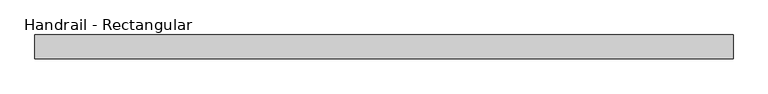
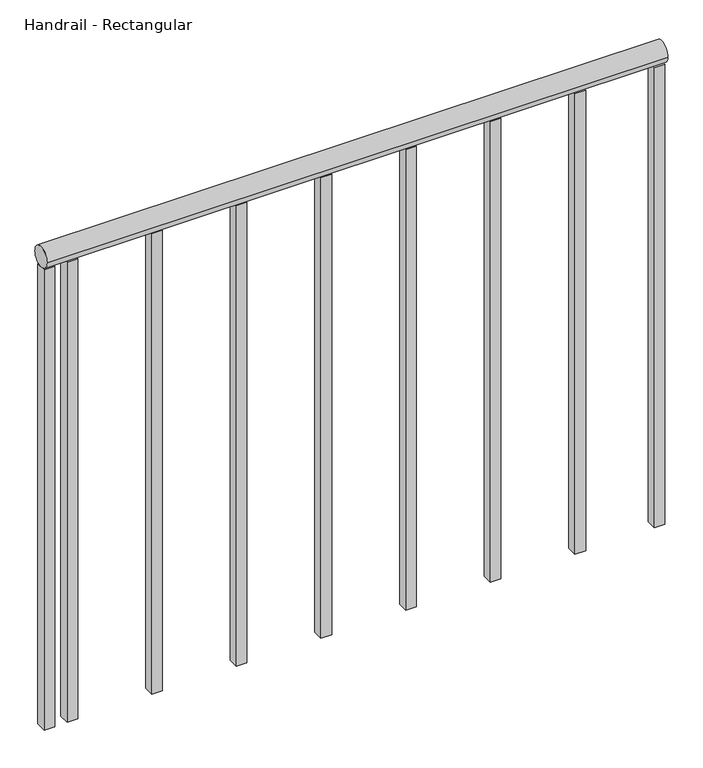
"""IFC4 building model written with IfcOpenShell, lengths in millimetres: railing geometry, Handrail - Rectangular."""

from ifc_helpers import new_model, si_unit, point, frame, frame_2d, origin, place, context, project, spatial, polyline, circle_curve, trimmed, segment, composite_curve, outline, extrude, source, transform, mapped, element, save


def handrail_rectangular_80ee4c50(model_context):
    return source(origin(), model_context, "Body", "SweptSolid", [
        extrude(outline(composite_curve([segment(trimmed(circle_curve(frame_2d((-27983.9683133, 3943.35)), 19.05), [point((-27964.9183133, 3943.35))], [point((-28003.0183133, 3943.35))], False, "CARTESIAN"), True, "CONTINUOUS"), segment(trimmed(circle_curve(frame_2d((-27983.9683133, 3943.35)), 19.05), [point((-28003.0183133, 3943.35))], [point((-27964.9183133, 3943.35))], False, "CARTESIAN"), True, "CONTINUOUS")], self_intersect=False)), frame((976.3410437, 0.0, 0.0), z_axis=(1.0, 0.0, 0.0), x_axis=(0.0, 1.0, 0.0)), (0.0, 0.0, 1.0), 1117.6),
        extrude(outline(polyline([(1036.6660437, -27993.4933133), (1017.6160437, -27993.4933133), (1017.6160437, -27974.4433133), (1036.6660437, -27974.4433133), (1036.6660437, -27993.4933133)])), frame((0.0, 0.0, 3048.0), z_axis=(0.0, 0.0, 1.0), x_axis=(1.0, 0.0, 0.0)), (0.0, 0.0, 1.0), 876.3),
        extrude(outline(polyline([(1189.0660437, -27993.4933133), (1170.0160437, -27993.4933133), (1170.0160437, -27974.4433133), (1189.0660437, -27974.4433133), (1189.0660437, -27993.4933133)])), frame((0.0, 0.0, 3048.0), z_axis=(0.0, 0.0, 1.0), x_axis=(1.0, 0.0, 0.0)), (0.0, 0.0, 1.0), 876.3),
        extrude(outline(polyline([(1341.4660437, -27993.4933133), (1322.4160437, -27993.4933133), (1322.4160437, -27974.4433133), (1341.4660437, -27974.4433133), (1341.4660437, -27993.4933133)])), frame((0.0, 0.0, 3048.0), z_axis=(0.0, 0.0, 1.0), x_axis=(1.0, 0.0, 0.0)), (0.0, 0.0, 1.0), 876.3),
        extrude(outline(polyline([(1493.8660437, -27993.4933133), (1474.8160437, -27993.4933133), (1474.8160437, -27974.4433133), (1493.8660437, -27974.4433133), (1493.8660437, -27993.4933133)])), frame((0.0, 0.0, 3048.0), z_axis=(0.0, 0.0, 1.0), x_axis=(1.0, 0.0, 0.0)), (0.0, 0.0, 1.0), 876.3),
        extrude(outline(polyline([(1646.2660437, -27993.4933133), (1627.2160437, -27993.4933133), (1627.2160437, -27974.4433133), (1646.2660437, -27974.4433133), (1646.2660437, -27993.4933133)])), frame((0.0, 0.0, 3048.0), z_axis=(0.0, 0.0, 1.0), x_axis=(1.0, 0.0, 0.0)), (0.0, 0.0, 1.0), 876.3),
        extrude(outline(polyline([(1798.6660437, -27993.4933133), (1779.6160437, -27993.4933133), (1779.6160437, -27974.4433133), (1798.6660437, -27974.4433133), (1798.6660437, -27993.4933133)])), frame((0.0, 0.0, 3048.0), z_axis=(0.0, 0.0, 1.0), x_axis=(1.0, 0.0, 0.0)), (0.0, 0.0, 1.0), 876.3),
        extrude(outline(polyline([(1951.0660437, -27993.4933133), (1932.0160437, -27993.4933133), (1932.0160437, -27974.4433133), (1951.0660437, -27974.4433133), (1951.0660437, -27993.4933133)])), frame((0.0, 0.0, 3048.0), z_axis=(0.0, 0.0, 1.0), x_axis=(1.0, 0.0, 0.0)), (0.0, 0.0, 1.0), 876.3),
        extrude(outline(polyline([(995.3910437, -27993.4933133), (976.3410437, -27993.4933133), (976.3410437, -27974.4433133), (995.3910437, -27974.4433133), (995.3910437, -27993.4933133)])), frame((0.0, 0.0, 3048.0), z_axis=(0.0, 0.0, 1.0), x_axis=(1.0, 0.0, 0.0)), (0.0, 0.0, 1.0), 876.3),
        extrude(outline(polyline([(2093.9410437, -27993.4933133), (2074.8910437, -27993.4933133), (2074.8910437, -27974.4433133), (2093.9410437, -27974.4433133), (2093.9410437, -27993.4933133)])), frame((0.0, 0.0, 3048.0), z_axis=(0.0, 0.0, 1.0), x_axis=(1.0, 0.0, 0.0)), (0.0, 0.0, 1.0), 876.3),
    ])


if __name__ == "__main__":
    model = new_model("IFC4")
    model_context = context("Model", 3, world=origin())
    ifc_project = project(units=[si_unit("LENGTHUNIT", "METRE", prefix="MILLI")], contexts=[model_context])
    site = spatial("IfcSite", under=ifc_project)
    building = spatial("IfcBuilding", under=site)
    placement = place(None, origin())
    handrail_rectangular_shape = handrail_rectangular_80ee4c50(model_context)
    element("IfcRailing", 1, ObjectType="Handrail - Rectangular", at=placement, inside=building, context=model_context, shape_type="MappedRepresentation", body=[
        mapped(handrail_rectangular_shape, transform((0.0, 0.0, 0.0), x_axis=(1.0, 0.0, 0.0), y_axis=(0.0, 1.0, 0.0), z_axis=(0.0, 0.0, 1.0))),
    ])
    save(model, "model.ifc")
